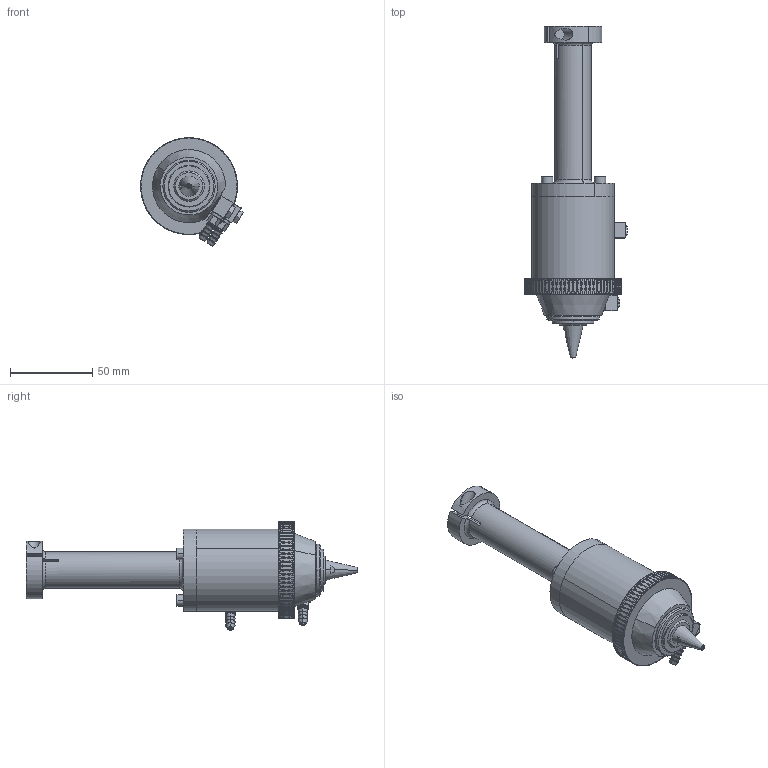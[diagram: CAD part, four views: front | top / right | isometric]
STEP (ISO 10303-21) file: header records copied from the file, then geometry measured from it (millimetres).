
FILE_DESCRIPTION (( 'STEP AP214' ), '1' );
FILE_NAME ('PHF-25-60.STEP', '2016-10-27T18:09:49', ( '' ), ( '' ), 'SwSTEP 2.0', 'SolidWorks 2016', '' );
FILE_SCHEMA (( 'AUTOMOTIVE_DESIGN' ));
Length unit declared in the file: inch
Products named in the file (1): PHF-25-60
Bounding box: 62.33 x 201.58 x 65.81 mm (x, y, z)
Volume: 184873.4 mm3; surface area: 36592.8 mm2
Topology: 1 solids, 2 shells, 1254 faces, 3548 edges, 2291 vertices
Faces by surface type: plane 756, cylinder 343, torus 83, sphere 40, cone 32
Entity records: 40247 total; most frequent: CARTESIAN_POINT 9025, ORIENTED_EDGE 7016, DIRECTION 6182, EDGE_CURVE 3508, VERTEX_POINT 2291, LINE 2150, VECTOR 2150, AXIS2_PLACEMENT_3D 2016
